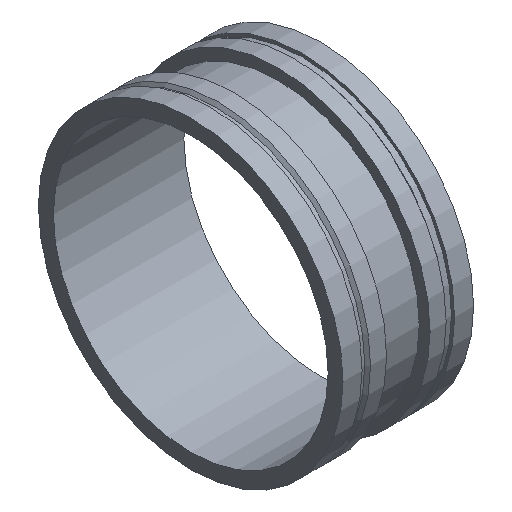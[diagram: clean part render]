
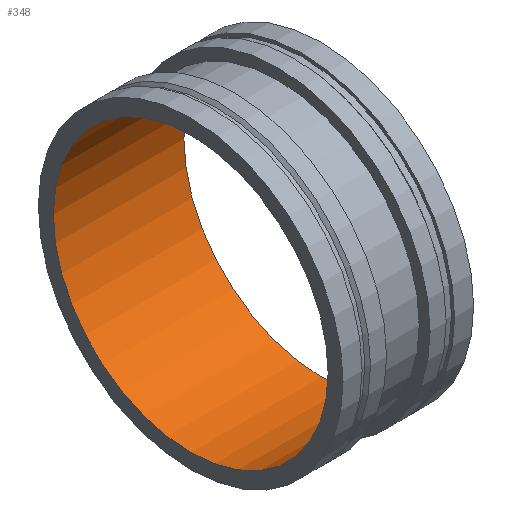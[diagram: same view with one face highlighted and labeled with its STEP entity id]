
A CAD part, isometric view. The second image highlights one B-rep face of the part: STEP entity #348.
In plain terms, the highlighted cylindrical face has radius 320.675 mm (diameter 641.35 mm), a full revolution.
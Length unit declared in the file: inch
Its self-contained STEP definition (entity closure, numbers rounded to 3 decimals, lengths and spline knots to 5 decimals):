
#56=LINE('',#654,#66);
#66=VECTOR('',#537,12.625);
#74=CYLINDRICAL_SURFACE('',#416,12.625);
#96=FACE_OUTER_BOUND('',#118,.T.);
#118=EDGE_LOOP('',(#303,#304,#305,#306,#307,#308));
#121=CIRCLE('',#372,12.625);
#122=CIRCLE('',#373,12.625);
#149=CIRCLE('',#414,12.625);
#150=CIRCLE('',#415,12.625);
#153=VERTEX_POINT('',#570);
#154=VERTEX_POINT('',#571);
#181=VERTEX_POINT('',#649);
#182=VERTEX_POINT('',#650);
#185=EDGE_CURVE('',#153,#154,#121,.T.);
#186=EDGE_CURVE('',#154,#153,#122,.T.);
#222=EDGE_CURVE('',#181,#182,#149,.T.);
#223=EDGE_CURVE('',#182,#181,#150,.T.);
#224=EDGE_CURVE('',#182,#154,#56,.T.);
#303=ORIENTED_EDGE('',*,*,#222,.T.);
#304=ORIENTED_EDGE('',*,*,#224,.T.);
#305=ORIENTED_EDGE('',*,*,#185,.F.);
#306=ORIENTED_EDGE('',*,*,#186,.F.);
#307=ORIENTED_EDGE('',*,*,#224,.F.);
#308=ORIENTED_EDGE('',*,*,#223,.T.);
#348=ADVANCED_FACE('',(#96),#74,.F.);
#372=AXIS2_PLACEMENT_3D('',#572,#438,#439);
#373=AXIS2_PLACEMENT_3D('',#573,#440,#441);
#414=AXIS2_PLACEMENT_3D('',#651,#531,#532);
#415=AXIS2_PLACEMENT_3D('',#652,#533,#534);
#416=AXIS2_PLACEMENT_3D('',#653,#535,#536);
#438=DIRECTION('center_axis',(1.,0.,0.));
#439=DIRECTION('ref_axis',(0.,0.,-1.));
#440=DIRECTION('center_axis',(1.,0.,0.));
#441=DIRECTION('ref_axis',(0.,0.,-1.));
#531=DIRECTION('center_axis',(1.,0.,0.));
#532=DIRECTION('ref_axis',(0.,0.,-1.));
#533=DIRECTION('center_axis',(1.,0.,0.));
#534=DIRECTION('ref_axis',(0.,0.,-1.));
#535=DIRECTION('center_axis',(1.,0.,0.));
#536=DIRECTION('ref_axis',(0.,1.,0.));
#537=DIRECTION('',(-1.,0.,0.));
#570=CARTESIAN_POINT('',(0.,12.625,0.));
#571=CARTESIAN_POINT('',(0.,-12.625,0.));
#572=CARTESIAN_POINT('Origin',(0.,0.,
0.));
#573=CARTESIAN_POINT('Origin',(0.,0.,
0.));
#649=CARTESIAN_POINT('',(12.,12.625,0.));
#650=CARTESIAN_POINT('',(12.,-12.625,0.));
#651=CARTESIAN_POINT('Origin',(12.,0.,0.));
#652=CARTESIAN_POINT('Origin',(12.,0.,0.));
#653=CARTESIAN_POINT('Origin',(6.,0.,0.));
#654=CARTESIAN_POINT('',(6.,-12.625,0.));
